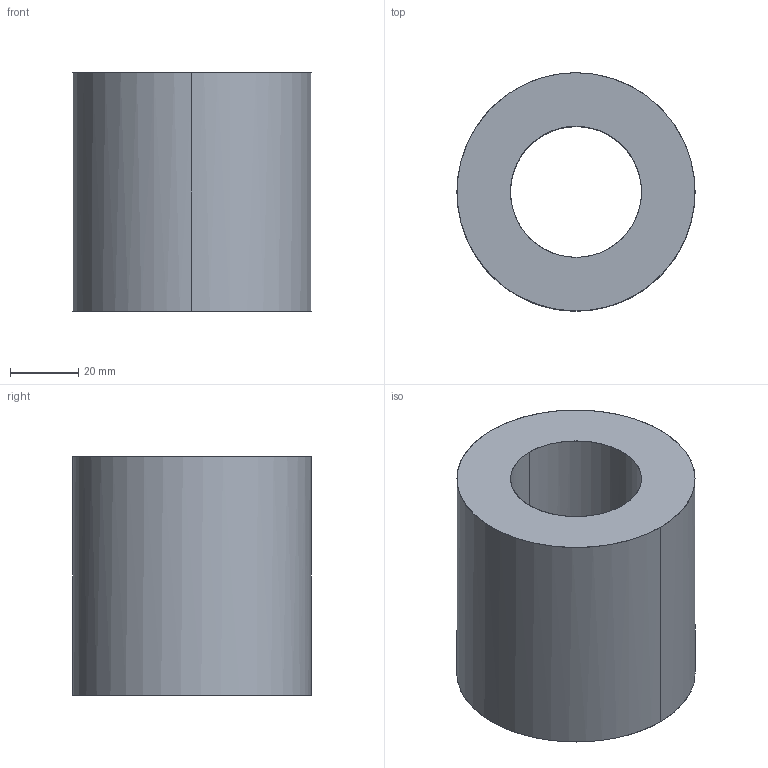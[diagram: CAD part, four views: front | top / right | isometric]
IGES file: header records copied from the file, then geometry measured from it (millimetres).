
Global section: file name: E:\UnigraphicsGraphicData\MISUMI_PRESS-PARTS\IGES\3d_swh70-70_00722_r00.igs; native system: NX V5.0; preprocessor: UGS NX IGES V5.0; author: MISUMI; date: 20110105.163258; units: millimetre
Bounding box: 70 x 70 x 70 mm (x, y, z)
Surface area: 29230 mm2 (no closed solid volume)
Topology: 0 solids, 0 shells, 6 faces, 80 edges, 80 vertices
Faces by surface type: bspline 6
